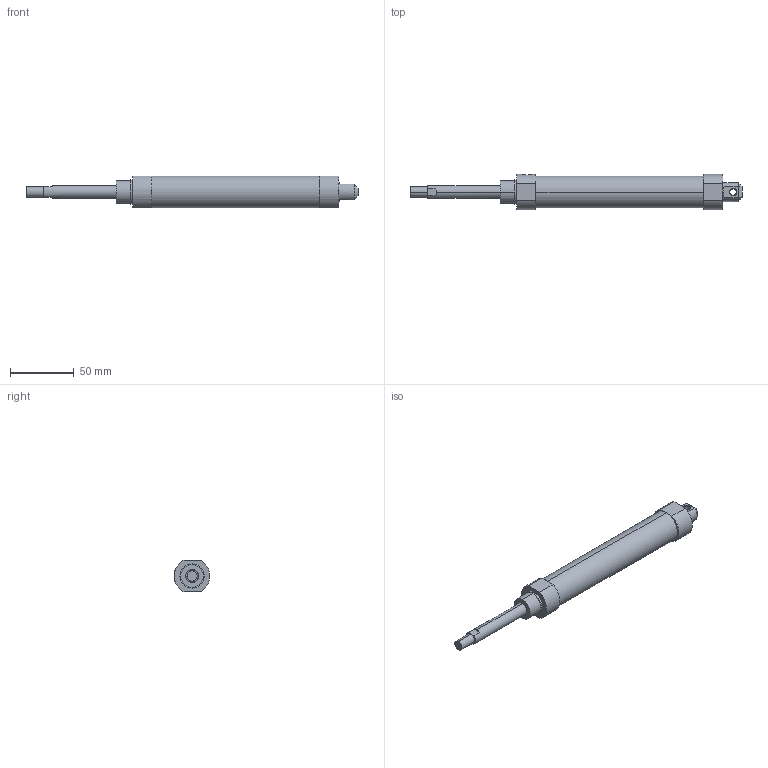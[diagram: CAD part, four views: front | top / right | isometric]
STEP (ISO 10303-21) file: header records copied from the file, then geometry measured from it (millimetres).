
FILE_DESCRIPTION (( 'STEP AP203' ), '1' );
FILE_NAME ('J#0-20-50-C.STEP', '2016-03-08T06:28:22', ( '' ), ( '' ), 'SwSTEP 2.0', 'SolidWorks 2014', '' );
FILE_SCHEMA (( 'CONFIG_CONTROL_DESIGN' ));
Length unit declared in the file: millimetre
Products named in the file (1): J#0-20-50-C
Bounding box: 261 x 27.95 x 25 mm (x, y, z)
Volume: 92185.3 mm3; surface area: 18329.7 mm2
Topology: 1 solids, 1 shells, 53 faces, 118 edges, 72 vertices
Faces by surface type: plane 27, cylinder 20, cone 6
Entity records: 1611 total; most frequent: CARTESIAN_POINT 322, DIRECTION 272, ORIENTED_EDGE 236, EDGE_CURVE 118, AXIS2_PLACEMENT_3D 106, VERTEX_POINT 72, VECTOR 60, EDGE_LOOP 60
